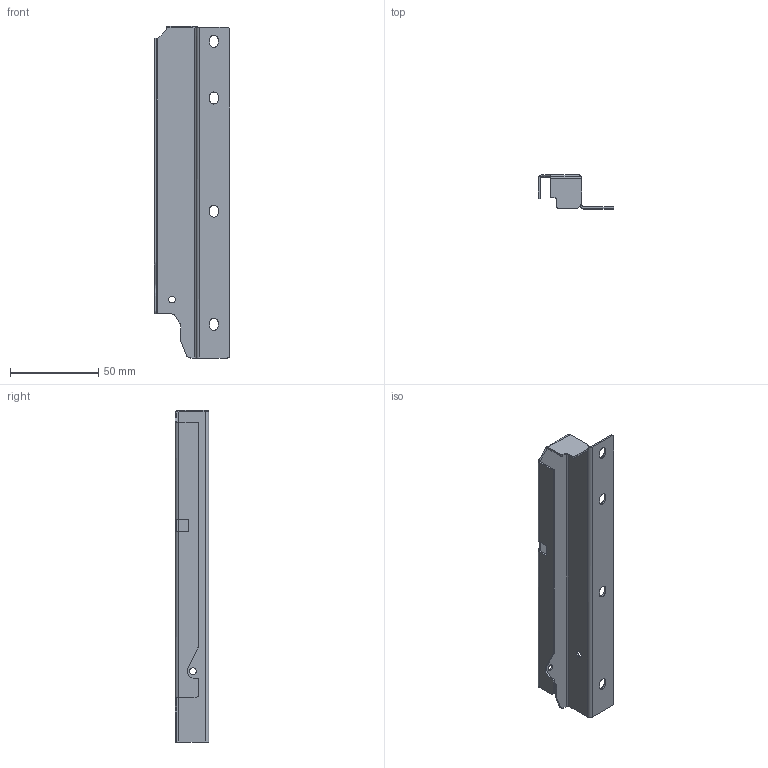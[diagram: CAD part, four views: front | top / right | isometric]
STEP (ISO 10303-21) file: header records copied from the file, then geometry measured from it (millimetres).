
FILE_DESCRIPTION (( 'STEP AP203' ), '1' );
FILE_NAME ('StrongBox ND držák zad H204 pravý_246691 a 246694_3D.STEP', '2021-02-08T10:43:04', ( '' ), ( '' ), 'SwSTEP 2.0', 'SolidWorks 2019', '' );
FILE_SCHEMA (( 'CONFIG_CONTROL_DESIGN' ));
Length unit declared in the file: millimetre
Products named in the file (1): StrongBox ND držák zad H204 pravý_246691 a 246694_3D
Bounding box: 42.7 x 19 x 187.7 mm (x, y, z)
Volume: 12525.6 mm3; surface area: 25706 mm2
Topology: 1 solids, 1 shells, 82 faces, 238 edges, 156 vertices
Faces by surface type: cylinder 43, plane 39
Entity records: 2843 total; most frequent: CARTESIAN_POINT 506, DIRECTION 481, ORIENTED_EDGE 476, EDGE_CURVE 238, AXIS2_PLACEMENT_3D 165, VERTEX_POINT 156, VECTOR 151, LINE 151
